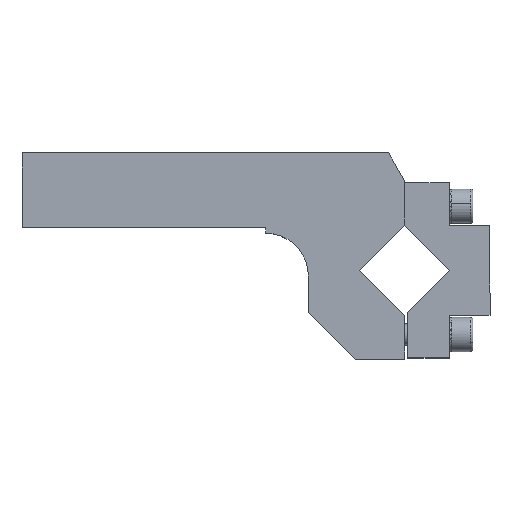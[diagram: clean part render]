
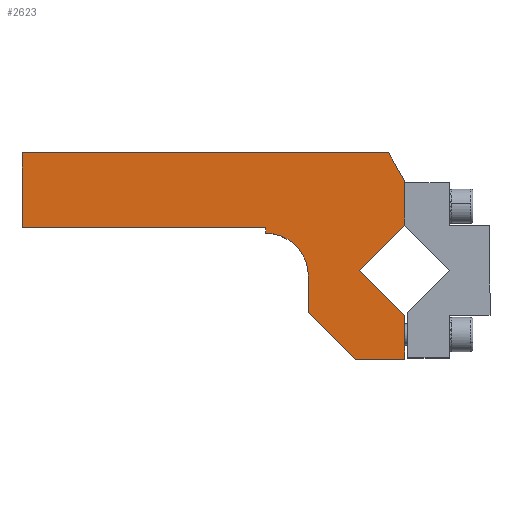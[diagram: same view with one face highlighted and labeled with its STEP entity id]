
A CAD part, top view. The second image highlights one B-rep face of the part: STEP entity #2623.
In plain terms, the highlighted planar face has unit normal (0, 0, 1).
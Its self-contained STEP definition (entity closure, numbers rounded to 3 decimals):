
#2367=CARTESIAN_POINT('',(-60.328,-46.169,101.));
#2368=VERTEX_POINT('',#2367);
#2375=CARTESIAN_POINT('',(-81.541,-67.383,101.));
#2376=VERTEX_POINT('',#2375);
#2377=CARTESIAN_POINT('',(-81.541,-67.383,101.));
#2378=DIRECTION('',(0.707,0.707,0.0));
#2379=VECTOR('',#2378,30.);
#2380=LINE('',#2377,#2379);
#2381=EDGE_CURVE('',#2376,#2368,#2380,.T.);
#2406=CARTESIAN_POINT('',(-60.328,-88.596,101.));
#2407=VERTEX_POINT('',#2406);
#2408=CARTESIAN_POINT('',(-60.328,-88.596,101.));
#2409=DIRECTION('',(-0.707,0.707,0.0));
#2410=VECTOR('',#2409,30.);
#2411=LINE('',#2408,#2410);
#2412=EDGE_CURVE('',#2407,#2376,#2411,.T.);
#2491=CARTESIAN_POINT('',(-60.328,-108.883,101.));
#2492=VERTEX_POINT('',#2491);
#2493=CARTESIAN_POINT('',(-60.328,-108.883,101.));
#2494=DIRECTION('',(0.0,1.0,0.0));
#2495=VECTOR('',#2494,20.287);
#2496=LINE('',#2493,#2495);
#2497=EDGE_CURVE('',#2492,#2407,#2496,.T.);
#2526=CARTESIAN_POINT('',(-135.513,-45.168,101.));
#2527=DIRECTION('',(0.0,0.0,1.0));
#2528=DIRECTION('',(1.0,0.0,0.0));
#2529=AXIS2_PLACEMENT_3D('',#2526,#2527,#2528);
#2530=PLANE('',#2529);
#2531=ORIENTED_EDGE('',*,*,#2412,.T.);
#2532=ORIENTED_EDGE('',*,*,#2381,.T.);
#2533=CARTESIAN_POINT('',(-60.328,-26.383,101.));
#2534=VERTEX_POINT('',#2533);
#2535=CARTESIAN_POINT('',(-60.328,-46.169,101.));
#2536=DIRECTION('',(0.0,1.0,0.0));
#2537=VECTOR('',#2536,19.787);
#2538=LINE('',#2535,#2537);
#2539=EDGE_CURVE('',#2368,#2534,#2538,.T.);
#2540=ORIENTED_EDGE('',*,*,#2539,.T.);
#2541=CARTESIAN_POINT('',(-60.328,-25.383,101.));
#2542=VERTEX_POINT('',#2541);
#2543=CARTESIAN_POINT('',(-60.328,-26.383,101.));
#2544=DIRECTION('',(0.0,1.0,0.0));
#2545=VECTOR('',#2544,1.);
#2546=LINE('',#2543,#2545);
#2547=EDGE_CURVE('',#2534,#2542,#2546,.T.);
#2548=ORIENTED_EDGE('',*,*,#2547,.T.);
#2549=CARTESIAN_POINT('',(-67.834,-12.383,101.));
#2550=VERTEX_POINT('',#2549);
#2551=CARTESIAN_POINT('',(-67.834,-12.383,101.));
#2552=DIRECTION('',(0.5,-0.866,0.0));
#2553=VECTOR('',#2552,15.011);
#2554=LINE('',#2551,#2553);
#2555=EDGE_CURVE('',#2550,#2542,#2554,.T.);
#2556=ORIENTED_EDGE('',*,*,#2555,.F.);
#2557=CARTESIAN_POINT('',(-239.328,-12.383,101.));
#2558=VERTEX_POINT('',#2557);
#2559=CARTESIAN_POINT('',(-239.328,-12.383,101.));
#2560=DIRECTION('',(1.0,0.0,0.0));
#2561=VECTOR('',#2560,171.494);
#2562=LINE('',#2559,#2561);
#2563=EDGE_CURVE('',#2558,#2550,#2562,.T.);
#2564=ORIENTED_EDGE('',*,*,#2563,.F.);
#2565=CARTESIAN_POINT('',(-239.328,-47.383,101.));
#2566=VERTEX_POINT('',#2565);
#2567=CARTESIAN_POINT('',(-239.328,-47.383,101.));
#2568=DIRECTION('',(0.0,1.0,0.0));
#2569=VECTOR('',#2568,35.0);
#2570=LINE('',#2567,#2569);
#2571=EDGE_CURVE('',#2566,#2558,#2570,.T.);
#2572=ORIENTED_EDGE('',*,*,#2571,.F.);
#2573=CARTESIAN_POINT('',(-125.328,-47.383,101.));
#2574=VERTEX_POINT('',#2573);
#2575=CARTESIAN_POINT('',(-125.328,-47.383,101.));
#2576=DIRECTION('',(-1.0,0.0,0.0));
#2577=VECTOR('',#2576,114.);
#2578=LINE('',#2575,#2577);
#2579=EDGE_CURVE('',#2574,#2566,#2578,.T.);
#2580=ORIENTED_EDGE('',*,*,#2579,.F.);
#2581=CARTESIAN_POINT('',(-125.328,-50.024,101.));
#2582=VERTEX_POINT('',#2581);
#2583=CARTESIAN_POINT('',(-125.328,-50.024,101.));
#2584=DIRECTION('',(0.0,1.0,0.0));
#2585=VECTOR('',#2584,2.642);
#2586=LINE('',#2583,#2585);
#2587=EDGE_CURVE('',#2582,#2574,#2586,.T.);
#2588=ORIENTED_EDGE('',*,*,#2587,.F.);
#2589=CARTESIAN_POINT('',(-105.328,-70.024,101.));
#2590=VERTEX_POINT('',#2589);
#2591=CARTESIAN_POINT('',(-125.328,-70.024,101.));
#2592=DIRECTION('',(0.0,0.0,1.0));
#2593=DIRECTION('',(-1.0,0.0,0.0));
#2594=AXIS2_PLACEMENT_3D('',#2591,#2592,#2593);
#2595=CIRCLE('',#2594,20.);
#2596=EDGE_CURVE('',#2590,#2582,#2595,.T.);
#2597=ORIENTED_EDGE('',*,*,#2596,.F.);
#2598=CARTESIAN_POINT('',(-105.328,-86.883,101.));
#2599=VERTEX_POINT('',#2598);
#2600=CARTESIAN_POINT('',(-105.328,-86.883,101.));
#2601=DIRECTION('',(0.0,1.0,0.0));
#2602=VECTOR('',#2601,16.858);
#2603=LINE('',#2600,#2602);
#2604=EDGE_CURVE('',#2599,#2590,#2603,.T.);
#2605=ORIENTED_EDGE('',*,*,#2604,.F.);
#2606=CARTESIAN_POINT('',(-83.328,-108.883,101.));
#2607=VERTEX_POINT('',#2606);
#2608=CARTESIAN_POINT('',(-105.328,-86.883,101.));
#2609=DIRECTION('',(0.707,-0.707,0.0));
#2610=VECTOR('',#2609,31.113);
#2611=LINE('',#2608,#2610);
#2612=EDGE_CURVE('',#2599,#2607,#2611,.T.);
#2613=ORIENTED_EDGE('',*,*,#2612,.T.);
#2614=CARTESIAN_POINT('',(-83.328,-108.883,101.));
#2615=DIRECTION('',(1.0,0.0,0.0));
#2616=VECTOR('',#2615,23.);
#2617=LINE('',#2614,#2616);
#2618=EDGE_CURVE('',#2607,#2492,#2617,.T.);
#2619=ORIENTED_EDGE('',*,*,#2618,.T.);
#2620=ORIENTED_EDGE('',*,*,#2497,.T.);
#2621=EDGE_LOOP('',(#2531,#2532,#2540,#2548,#2556,#2564,#2572,#2580,#2588,#2597,#2605,#2613,#2619,#2620));
#2622=FACE_OUTER_BOUND('',#2621,.T.);
#2623=ADVANCED_FACE('',(#2622),#2530,.T.);
